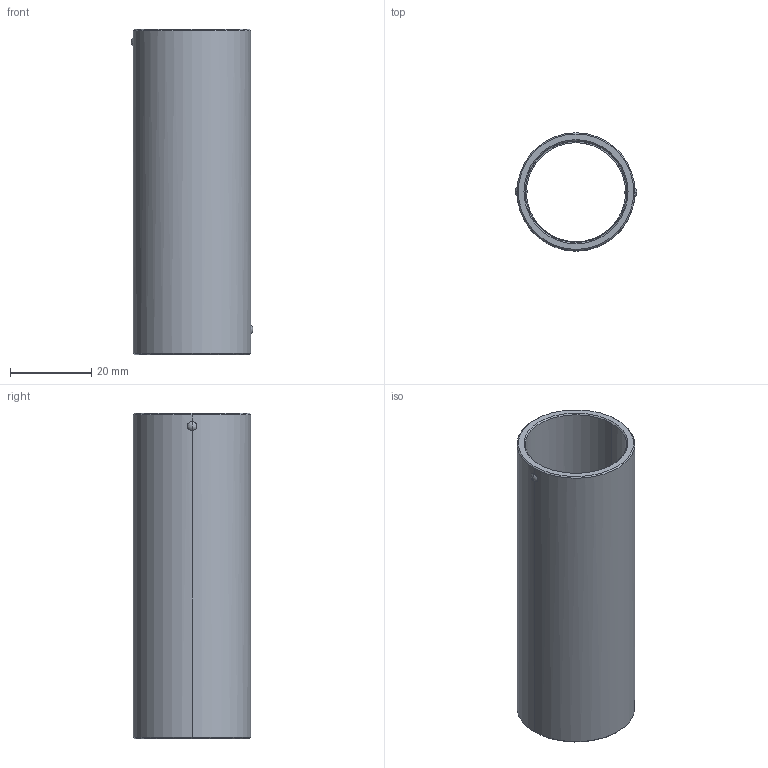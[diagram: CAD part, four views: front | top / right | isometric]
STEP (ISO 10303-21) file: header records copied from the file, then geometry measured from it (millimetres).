
FILE_DESCRIPTION(('CATIA V5 STEP Exchange'),'2;1');
FILE_NAME('C:\Users\Utente\Desktop\IO LAVORO\3D X SITO CF\X SITO\730\730-24x80.stp','2021-01-07T16:14:36+00:00',('none'),('none'),'CATIA Version 5 Release 20 GA (IN-10)','CATIA V5 STEP AP203','none');
FILE_SCHEMA(('CONFIG_CONTROL_DESIGN'));
Length unit declared in the file: millimetre
Products named in the file (1): 730-24x80
Bounding box: 30 x 29 x 80 mm (x, y, z)
Volume: 13098.6 mm3; surface area: 14104.5 mm2
Topology: 1 solids, 1 shells, 44 faces, 120 edges, 76 vertices
Faces by surface type: cylinder 18, cone 10, plane 8, sphere 8
Entity records: 1724 total; most frequent: CARTESIAN_POINT 657, ORIENTED_EDGE 240, DIRECTION 161, EDGE_CURVE 120, AXIS2_PLACEMENT_3D 80, VERTEX_POINT 76, EDGE_LOOP 48, B_SPLINE_CURVE_WITH_KNOTS 47
